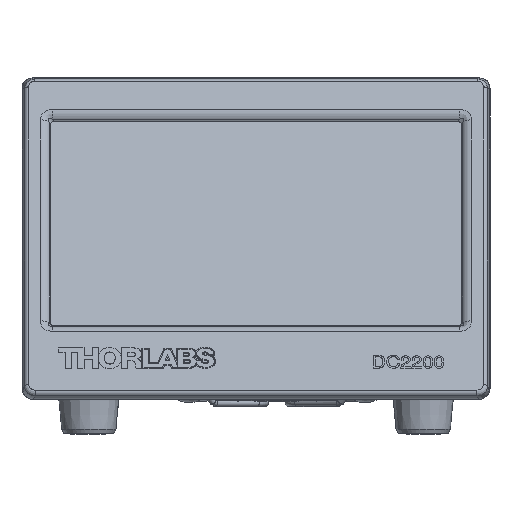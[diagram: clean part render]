
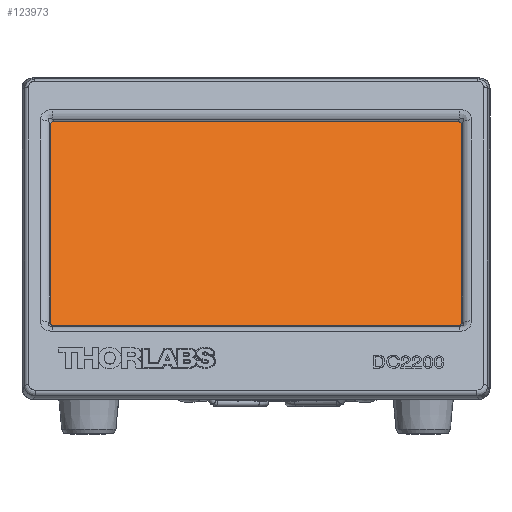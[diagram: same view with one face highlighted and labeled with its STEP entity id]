
A CAD part, top view. The second image highlights one B-rep face of the part: STEP entity #123973.
In plain terms, the highlighted planar face has unit normal (0, 0.5, 0.866).
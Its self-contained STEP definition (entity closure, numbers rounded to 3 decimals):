
#14026 = CARTESIAN_POINT ( 'NONE',  ( 0.25, 7.574, 26.25 ) ) ;
#32618 = CARTESIAN_POINT ( 'NONE',  ( -104.95, 7.834, 26.1 ) ) ;
#40971 = CARTESIAN_POINT ( 'NONE',  ( -104.95, 7.834, 26.1 ) ) ;
#49556 = VERTEX_POINT ( 'NONE', #146816 ) ;
#50122 = DIRECTION ( 'NONE',  ( 1., 0., 0. ) ) ;
#51350 = LINE ( 'NONE', #52645, #64630 ) ;
#52645 = CARTESIAN_POINT ( 'NONE',  ( -104.95, 65.511, -7.2 ) ) ;
#64630 = VECTOR ( 'NONE', #133872, 1000. ) ;
#66195 = FACE_OUTER_BOUND ( 'NONE', #108017, .T. ) ;
#82640 = VECTOR ( 'NONE', #259456, 1000. ) ;
#92609 = CARTESIAN_POINT ( 'NONE',  ( -0.05, 7.834, 26.1 ) ) ;
#99034 = DIRECTION ( 'NONE',  ( 1., 0., 0. ) ) ;
#101311 = CARTESIAN_POINT ( 'NONE',  ( -104.95, 65.511, -7.2 ) ) ;
#108017 = EDGE_LOOP ( 'NONE', ( #146509, #159347, #198318, #117344 ) ) ;
#113888 = DIRECTION ( 'NONE',  ( 0., 0.5, 0.866 ) ) ;
#117344 = ORIENTED_EDGE ( 'NONE', *, *, #154685, .T. ) ;
#123973 = ADVANCED_FACE ( 'NONE', ( #66195 ), #228800, .T. ) ;
#133872 = DIRECTION ( 'NONE',  ( -1., 0., 0. ) ) ;
#136101 = VERTEX_POINT ( 'NONE', #101311 ) ;
#140615 = LINE ( 'NONE', #179283, #222800 ) ;
#146509 = ORIENTED_EDGE ( 'NONE', *, *, #219949, .T. ) ;
#146816 = CARTESIAN_POINT ( 'NONE',  ( -0.05, 65.511, -7.2 ) ) ;
#150443 = EDGE_CURVE ( 'NONE', #213151, #241200, #257961, .T. ) ;
#154685 = EDGE_CURVE ( 'NONE', #49556, #136101, #51350, .T. ) ;
#156095 = VECTOR ( 'NONE', #99034, 1000. ) ;
#158702 = AXIS2_PLACEMENT_3D ( 'NONE', #14026, #113888, #50122 ) ;
#159347 = ORIENTED_EDGE ( 'NONE', *, *, #150443, .T. ) ;
#161860 = LINE ( 'NONE', #243453, #82640 ) ;
#161927 = DIRECTION ( 'NONE',  ( 0., -0.866, 0.5 ) ) ;
#179283 = CARTESIAN_POINT ( 'NONE',  ( -104.95, 7.834, 26.1 ) ) ;
#198318 = ORIENTED_EDGE ( 'NONE', *, *, #243337, .T. ) ;
#213151 = VERTEX_POINT ( 'NONE', #40971 ) ;
#219949 = EDGE_CURVE ( 'NONE', #136101, #213151, #140615, .T. ) ;
#222800 = VECTOR ( 'NONE', #161927, 1000. ) ;
#228800 = PLANE ( 'NONE',  #158702 ) ;
#241200 = VERTEX_POINT ( 'NONE', #92609 ) ;
#243337 = EDGE_CURVE ( 'NONE', #241200, #49556, #161860, .T. ) ;
#243453 = CARTESIAN_POINT ( 'NONE',  ( -0.05, 7.834, 26.1 ) ) ;
#257961 = LINE ( 'NONE', #32618, #156095 ) ;
#259456 = DIRECTION ( 'NONE',  ( 0., 0.866, -0.5 ) ) ;
